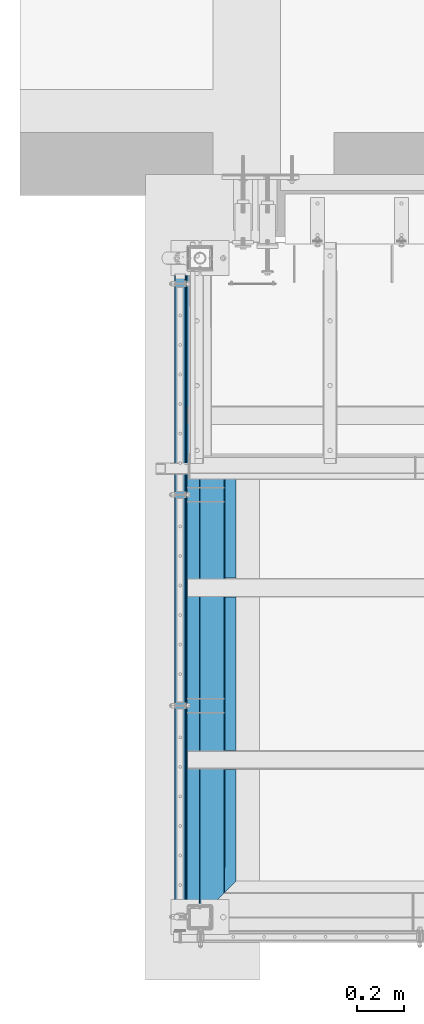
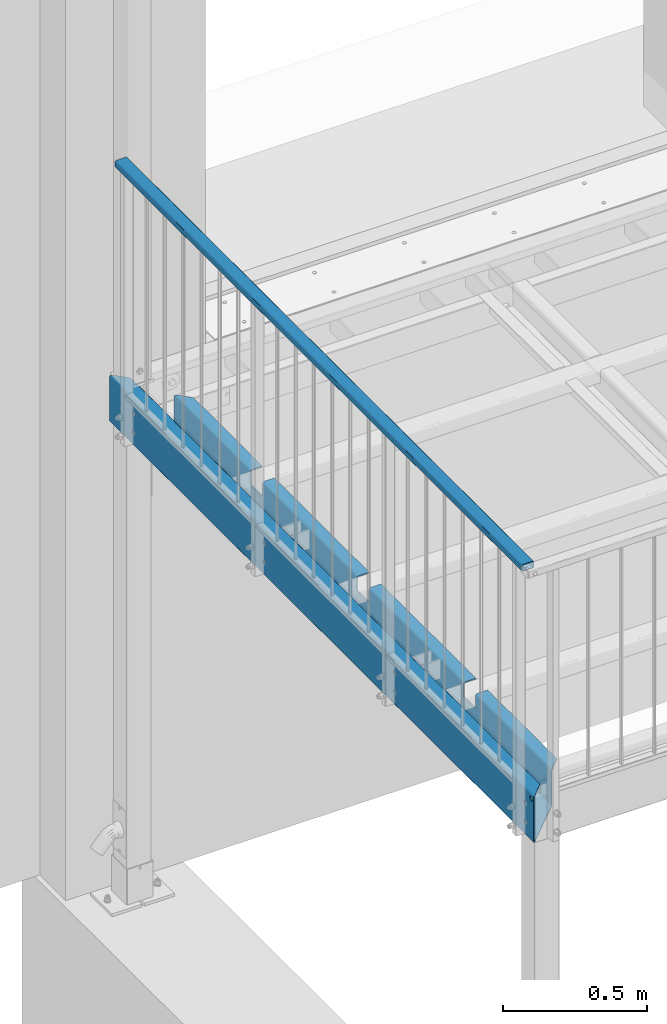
# One storey, part 9 of 116: 2 beams, 38 openings.
"""IFC2X3 building model written with IfcOpenShell, lengths in millimetres."""

from ifc_helpers import new_model, entity, si_unit, converted_unit, point, frame, frame_2d, origin, origin_with_axes, origin_2d, place, context, project, spatial, polyline, circle_curve, line_curve, trimmed, segment, composite_curve, hollow_rectangle, circle, outline, extrude, clip, halfspace, material, element, save


model = new_model("IFC2X3")

# Units and contexts
model_context = context("Model", 3, precision=1e-09, world=origin_with_axes())
ifc_project = project(units=[si_unit("LENGTHUNIT", "METRE", prefix="MILLI"), si_unit("AREAUNIT", "SQUARE_METRE"), si_unit("VOLUMEUNIT", "CUBIC_METRE"), converted_unit("PLANEANGLEUNIT", "DEGREE", entity("IfcPlaneAngleMeasure", 0.01745329), si_unit("PLANEANGLEUNIT", "RADIAN"), dimensions=[0, 0, 0, 0, 0, 0, 0])], contexts=[model_context])

# Site, building, storey
site_placement = place(None, origin_with_axes())
site = spatial("IfcSite", under=ifc_project, at=site_placement, Name="Site", CompositionType="ELEMENT")
building_placement = place(site_placement, origin_with_axes())
building = spatial("IfcBuilding", under=site, at=building_placement, Name="Struktur 1", CompositionType="ELEMENT")
storey_placement = place(building_placement, origin_with_axes())
storey = spatial("IfcBuildingStorey", under=building, at=storey_placement, Name="Default Storey", CompositionType="ELEMENT", Elevation=0.0)

# Beam, openings
ifc_material_1 = material(Name="S355JR")
beam_1_placement = place(None, frame((55384.549134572, 8675.322881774, -105.0), z_axis=(0.0, -1.0, 0.0), x_axis=(1.0, 0.0, 0.0)))
beam_1 = element("IfcBeam", 1, at=beam_1_placement, inside=storey, material=ifc_material_1, Name="-", ObjectType="-", context=model_context, shape_type="Clipping", body=[
    clip(clip(extrude(outline(composite_curve([segment(trimmed(line_curve((-47.5, 60.0), (0.0, 1.0), 31.0), [point((-47.5, 60.0))], [point((-47.5, 91.0))], True, "CARTESIAN"), True, "CONTINUOUS"), segment(trimmed(circle_curve(frame_2d((-56.500000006, 90.999999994), x_axis=(1.0, 0.0)), 9.000000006), [point((-47.5, 91.0))], [point((-56.5, 100.0))], True, "CARTESIAN"), True, "CONTINUOUS"), segment(trimmed(line_curve((-56.5, 100.0), (-1.0, 0.0), 42.0), [point((-56.5, 100.0))], [point((-98.5, 100.0))], True, "CARTESIAN"), True, "CONTINUOUS"), segment(trimmed(circle_curve(frame_2d((-98.499999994, 90.999999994), x_axis=(1.0, 0.0)), 9.000000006), [point((-98.5, 100.0))], [point((-107.5, 91.0))], True, "CARTESIAN"), True, "CONTINUOUS"), segment(trimmed(line_curve((-107.5, 91.0), (0.0, -1.0), 182.0), [point((-107.5, 91.0))], [point((-107.5, -91.0))], True, "CARTESIAN"), True, "CONTINUOUS"), segment(trimmed(circle_curve(frame_2d((-98.499999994, -90.999999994), x_axis=(1.0, 0.0)), 9.000000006), [point((-107.5, -91.0))], [point((-98.5, -100.0))], True, "CARTESIAN"), True, "CONTINUOUS"), segment(trimmed(line_curve((-98.5, -100.0), (1.0, 0.0), 152.0), [point((-98.5, -100.0))], [point((53.5, -100.0))], True, "CARTESIAN"), True, "CONTINUOUS"), segment(trimmed(circle_curve(frame_2d((53.499999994, -90.999999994), x_axis=(1.0, 0.0)), 9.000000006), [point((53.5, -100.0))], [point((62.5, -91.0))], True, "CARTESIAN"), True, "CONTINUOUS"), segment(trimmed(line_curve((62.5, -91.0), (0.0, 1.0), 139.0), [point((62.5, -91.0))], [point((62.5, 48.0))], True, "CARTESIAN"), True, "CONTINUOUS"), segment(trimmed(circle_curve(frame_2d((66.500000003, 47.999999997), x_axis=(-1.0, 0.0)), 4.000000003), [point((62.5, 48.0))], [point((66.5, 52.0))], False, "CARTESIAN"), True, "CONTINUOUS"), segment(trimmed(line_curve((66.5, 52.0), (1.0, 0.0), 41.0), [point((66.5, 52.0))], [point((107.5, 52.0))], True, "CARTESIAN"), True, "CONTINUOUS"), segment(trimmed(line_curve((107.5, 52.0), (0.0, 1.0), 5.0), [point((107.5, 52.0))], [point((107.5, 57.0))], True, "CARTESIAN"), True, "CONTINUOUS"), segment(trimmed(line_curve((107.5, 57.0), (-1.0, 0.0), 41.0), [point((107.5, 57.0))], [point((66.5, 57.0))], True, "CARTESIAN"), True, "CONTINUOUS"), segment(trimmed(circle_curve(frame_2d((66.500000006, 47.999999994), x_axis=(1.0, 0.0)), 9.000000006), [point((66.5, 57.0))], [point((57.5, 48.0))], True, "CARTESIAN"), True, "CONTINUOUS"), segment(trimmed(line_curve((57.5, 48.0), (0.0, -1.0), 139.0), [point((57.5, 48.0))], [point((57.5, -91.0))], True, "CARTESIAN"), True, "CONTINUOUS"), segment(trimmed(circle_curve(frame_2d((53.499999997, -90.999999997), x_axis=(-1.0, 0.0)), 4.000000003), [point((57.5, -91.0))], [point((53.5, -95.0))], False, "CARTESIAN"), True, "CONTINUOUS"), segment(trimmed(line_curve((53.5, -95.0), (-1.0, 0.0), 152.0), [point((53.5, -95.0))], [point((-98.5, -95.0))], True, "CARTESIAN"), True, "CONTINUOUS"), segment(trimmed(circle_curve(frame_2d((-98.499999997, -90.999999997), x_axis=(-1.0, 0.0)), 4.000000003), [point((-98.5, -95.0))], [point((-102.5, -91.0))], False, "CARTESIAN"), True, "CONTINUOUS"), segment(trimmed(line_curve((-102.5, -91.0), (0.0, 1.0), 182.0), [point((-102.5, -91.0))], [point((-102.5, 91.0))], True, "CARTESIAN"), True, "CONTINUOUS"), segment(trimmed(circle_curve(frame_2d((-98.499999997, 90.999999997), x_axis=(-1.0, 0.0)), 4.000000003), [point((-102.5, 91.0))], [point((-98.5, 95.0))], False, "CARTESIAN"), True, "CONTINUOUS"), segment(trimmed(line_curve((-98.5, 95.0), (1.0, 0.0), 42.0), [point((-98.5, 95.0))], [point((-56.5, 95.0))], True, "CARTESIAN"), True, "CONTINUOUS"), segment(trimmed(circle_curve(frame_2d((-56.500000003, 90.999999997), x_axis=(-1.0, 0.0)), 4.000000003), [point((-56.5, 95.0))], [point((-52.5, 91.0))], False, "CARTESIAN"), True, "CONTINUOUS"), segment(trimmed(line_curve((-52.5, 91.0), (0.0, -1.0), 31.0), [point((-52.5, 91.0))], [point((-52.5, 60.0))], True, "CARTESIAN"), True, "CONTINUOUS"), segment(trimmed(line_curve((-52.5, 60.0), (1.0, 0.0), 5.0), [point((-52.5, 60.0))], [point((-47.5, 60.0))], True, "CARTESIAN"), True, "CONTINUOUS")], self_intersect=False)), origin(), (0.0, 0.0, -1.0), 3744.072002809), halfspace(frame((-21734.845832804, 105.0, -24974.380419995), z_axis=(-0.707106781, 0.0, 0.707106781), x_axis=(0.707106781, 0.0, 0.707106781)), True)), halfspace(frame((-32282.204715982, 105.0, 31777.667300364), z_axis=(-0.707106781, 0.0, -0.707106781), x_axis=(-0.707106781, 0.0, 0.707106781)), True)),
])
opening_1_placement = place(beam_1_placement, frame((-112.790927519, -200.1, -3350.394346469), z_axis=(0.0, 1.0, 0.0), x_axis=(1.0, 0.0, 0.0)))
element("IfcOpeningElement", 2, at=opening_1_placement, cuts=beam_1, ObjectType="Opening", context=model_context, shape_type="SweptSolid", body=[
    extrude(outline(polyline([(-10.293341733, -8.357660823), (10.293341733, -8.357660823), (10.293341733, 8.357660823), (-10.293341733, 8.357660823), (-10.293341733, -8.357660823)])), origin(), (0.0, 0.0, 1.0), 400.2),
])
opening_2_placement = place(beam_1_placement, frame((-123.084269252, -200.1, -402.035317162), z_axis=(0.0, -1.0, 0.0), x_axis=(1.0, 0.0, 0.0)))
element("IfcOpeningElement", 3, at=opening_2_placement, cuts=beam_1, ObjectType="Opening", context=model_context, shape_type="SweptSolid", body=[
    extrude(outline(polyline([(0.0, 0.0), (20.586683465, 0.0), (20.586683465, 16.715321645), (0.0, 16.715321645), (0.0, 0.0)])), origin(), (0.0, 0.0, -1.0), 400.2),
])
opening_3_placement = place(beam_1_placement, frame((207.6, 100.0, -3347.036001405), z_axis=(-1.0, 0.0, 0.0), x_axis=(0.0, 0.0, 1.0)))
element("IfcOpeningElement", 4, at=opening_3_placement, cuts=beam_1, ObjectType="Opening", context=model_context, shape_type="SweptSolid", body=[
    extrude(outline(composite_curve([segment(trimmed(circle_curve(frame_2d((1438.999, -99.001), x_axis=(1.0, 0.0)), 5.0), [point((1433.999, -99.001))], [point((1438.999, -104.001))], True, "CARTESIAN"), True, "CONTINUOUS"), segment(trimmed(line_curve((1438.999, -104.001), (1.0, 0.0), 72.002), [point((1438.999, -104.001))], [point((1511.001, -104.001))], True, "CARTESIAN"), True, "CONTINUOUS"), segment(trimmed(circle_curve(frame_2d((1511.001, -99.001), x_axis=(1.0, 0.0)), 5.0), [point((1511.001, -104.001))], [point((1516.001, -99.001))], True, "CARTESIAN"), True, "CONTINUOUS"), segment(trimmed(line_curve((1516.001, -99.001), (0.0, 1.0), 64.909628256), [point((1516.001, -99.001))], [point((1516.001, -34.091371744))], True, "CARTESIAN"), True, "CONTINUOUS"), segment(trimmed(circle_curve(frame_2d((1511.001, -34.091371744), x_axis=(1.0, 0.0)), 5.0), [point((1516.001, -34.091371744))], [point((1511.001, -29.091371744))], True, "CARTESIAN"), True, "CONTINUOUS"), segment(trimmed(line_curve((1511.001, -29.091371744), (-1.0, 0.0), 72.002), [point((1511.001, -29.091371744))], [point((1438.999, -29.091371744))], True, "CARTESIAN"), True, "CONTINUOUS"), segment(trimmed(circle_curve(frame_2d((1438.999, -34.091371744), x_axis=(1.0, 0.0)), 5.0), [point((1438.999, -29.091371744))], [point((1433.999, -34.091371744))], True, "CARTESIAN"), True, "CONTINUOUS"), segment(trimmed(line_curve((1433.999, -34.091371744), (0.0, -1.0), 64.909628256), [point((1433.999, -34.091371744))], [point((1433.999, -99.001))], True, "CARTESIAN"), True, "CONTINUOUS")], self_intersect=False)), origin(), (0.0, 0.0, 1.0), 215.1),
])
opening_4_placement = place(beam_1_placement, frame((-102.0, 100.0, -402.035317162), z_axis=(-1.0, 0.0, 0.0), x_axis=(0.0, 0.0, 1.0)))
element("IfcOpeningElement", 5, at=opening_4_placement, cuts=beam_1, ObjectType="Opening", context=model_context, shape_type="SweptSolid", body=[
    extrude(circle(Radius=10.001, at=frame_2d((-15.0, -20.0), x_axis=(1.0, 0.0))), origin(), (0.0, 0.0, 1.0), 6.0),
])
opening_5_placement = place(beam_1_placement, frame((207.6, 33.453814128, -2612.036001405), z_axis=(-1.0, 0.0, 0.0), x_axis=(0.0, 0.0, 1.0)))
element("IfcOpeningElement", 6, at=opening_5_placement, cuts=beam_1, ObjectType="Opening", context=model_context, shape_type="SweptSolid", body=[
    extrude(outline(composite_curve([segment(trimmed(circle_curve(frame_2d((-36.001, -32.454814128), x_axis=(1.0, 0.0)), 5.0), [point((-41.001, -32.454814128))], [point((-36.001, -37.454814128))], True, "CARTESIAN"), True, "CONTINUOUS"), segment(trimmed(line_curve((-36.001, -37.454814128), (1.0, 0.0), 72.002), [point((-36.001, -37.454814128))], [point((36.001, -37.454814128))], True, "CARTESIAN"), True, "CONTINUOUS"), segment(trimmed(circle_curve(frame_2d((36.001, -32.454814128), x_axis=(1.0, 0.0)), 5.0), [point((36.001, -37.454814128))], [point((41.001, -32.454814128))], True, "CARTESIAN"), True, "CONTINUOUS"), segment(trimmed(line_curve((41.001, -32.454814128), (0.0, 1.0), 64.909628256), [point((41.001, -32.454814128))], [point((41.001, 32.454814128))], True, "CARTESIAN"), True, "CONTINUOUS"), segment(trimmed(circle_curve(frame_2d((36.001, 32.454814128), x_axis=(1.0, 0.0)), 5.0), [point((41.001, 32.454814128))], [point((36.001, 37.454814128))], True, "CARTESIAN"), True, "CONTINUOUS"), segment(trimmed(line_curve((36.001, 37.454814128), (-1.0, 0.0), 72.002), [point((36.001, 37.454814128))], [point((-36.001, 37.454814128))], True, "CARTESIAN"), True, "CONTINUOUS"), segment(trimmed(circle_curve(frame_2d((-36.001, 32.454814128), x_axis=(1.0, 0.0)), 5.0), [point((-36.001, 37.454814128))], [point((-41.001, 32.454814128))], True, "CARTESIAN"), True, "CONTINUOUS"), segment(trimmed(line_curve((-41.001, 32.454814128), (0.0, -1.0), 64.909628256), [point((-41.001, 32.454814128))], [point((-41.001, -32.454814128))], True, "CARTESIAN"), True, "CONTINUOUS")], self_intersect=False)), origin(), (0.0, 0.0, 1.0), 215.1),
])
opening_6_placement = place(beam_1_placement, frame((207.6, 33.453814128, -1132.036001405), z_axis=(-1.0, 0.0, 0.0), x_axis=(0.0, 0.0, 1.0)))
element("IfcOpeningElement", 7, at=opening_6_placement, cuts=beam_1, ObjectType="Opening", context=model_context, shape_type="SweptSolid", body=[
    extrude(outline(composite_curve([segment(trimmed(circle_curve(frame_2d((-36.001, -32.454814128), x_axis=(1.0, 0.0)), 5.0), [point((-41.001, -32.454814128))], [point((-36.001, -37.454814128))], True, "CARTESIAN"), True, "CONTINUOUS"), segment(trimmed(line_curve((-36.001, -37.454814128), (1.0, 0.0), 72.002), [point((-36.001, -37.454814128))], [point((36.001, -37.454814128))], True, "CARTESIAN"), True, "CONTINUOUS"), segment(trimmed(circle_curve(frame_2d((36.001, -32.454814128), x_axis=(1.0, 0.0)), 5.0), [point((36.001, -37.454814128))], [point((41.001, -32.454814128))], True, "CARTESIAN"), True, "CONTINUOUS"), segment(trimmed(line_curve((41.001, -32.454814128), (0.0, 1.0), 64.909628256), [point((41.001, -32.454814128))], [point((41.001, 32.454814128))], True, "CARTESIAN"), True, "CONTINUOUS"), segment(trimmed(circle_curve(frame_2d((36.001, 32.454814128), x_axis=(1.0, 0.0)), 5.0), [point((41.001, 32.454814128))], [point((36.001, 37.454814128))], True, "CARTESIAN"), True, "CONTINUOUS"), segment(trimmed(line_curve((36.001, 37.454814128), (-1.0, 0.0), 72.002), [point((36.001, 37.454814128))], [point((-36.001, 37.454814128))], True, "CARTESIAN"), True, "CONTINUOUS"), segment(trimmed(circle_curve(frame_2d((-36.001, 32.454814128), x_axis=(1.0, 0.0)), 5.0), [point((-36.001, 37.454814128))], [point((-41.001, 32.454814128))], True, "CARTESIAN"), True, "CONTINUOUS"), segment(trimmed(line_curve((-41.001, 32.454814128), (0.0, -1.0), 64.909628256), [point((-41.001, 32.454814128))], [point((-41.001, -32.454814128))], True, "CARTESIAN"), True, "CONTINUOUS")], self_intersect=False)), origin(), (0.0, 0.0, 1.0), 215.1),
])
opening_7_placement = place(beam_1_placement, frame((-108.0, 40.0, -3184.037001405), z_axis=(-1.0, 0.0, 0.0), x_axis=(0.0, -1.0, 0.0)))
element("IfcOpeningElement", 8, at=opening_7_placement, cuts=beam_1, ObjectType="Opening", context=model_context, shape_type="SweptSolid", body=[
    extrude(circle(Radius=7.001, at=frame_2d((0.0, 7.001), x_axis=(1.0, 0.0))), origin(), (0.0, 0.0, -1.0), 6.0),
])
opening_8_placement = place(beam_1_placement, frame((-108.0, -40.0, -3184.037001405), z_axis=(-1.0, 0.0, 0.0), x_axis=(0.0, -1.0, 0.0)))
element("IfcOpeningElement", 9, at=opening_8_placement, cuts=beam_1, ObjectType="Opening", context=model_context, shape_type="SweptSolid", body=[
    extrude(circle(Radius=7.001, at=frame_2d((0.0, 7.001), x_axis=(1.0, 0.0))), origin(), (0.0, 0.0, -1.0), 6.0),
])
opening_9_placement = place(beam_1_placement, frame((-108.0, 40.0, -1372.037001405), z_axis=(-1.0, 0.0, 0.0), x_axis=(0.0, -1.0, 0.0)))
element("IfcOpeningElement", 10, at=opening_9_placement, cuts=beam_1, ObjectType="Opening", context=model_context, shape_type="SweptSolid", body=[
    extrude(circle(Radius=7.001, at=frame_2d((0.0, 7.001), x_axis=(1.0, 0.0))), origin(), (0.0, 0.0, -1.0), 6.0),
])
opening_10_placement = place(beam_1_placement, frame((-108.0, -40.0, -1372.037001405), z_axis=(-1.0, 0.0, 0.0), x_axis=(0.0, -1.0, 0.0)))
element("IfcOpeningElement", 11, at=opening_10_placement, cuts=beam_1, ObjectType="Opening", context=model_context, shape_type="SweptSolid", body=[
    extrude(circle(Radius=7.001, at=frame_2d((0.0, 7.001), x_axis=(1.0, 0.0))), origin(), (0.0, 0.0, -1.0), 6.0),
])
opening_11_placement = place(beam_1_placement, frame((-108.0, 40.0, -466.037001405), z_axis=(-1.0, 0.0, 0.0), x_axis=(0.0, -1.0, 0.0)))
element("IfcOpeningElement", 12, at=opening_11_placement, cuts=beam_1, ObjectType="Opening", context=model_context, shape_type="SweptSolid", body=[
    extrude(circle(Radius=7.001, at=frame_2d((0.0, 7.001), x_axis=(1.0, 0.0))), origin(), (0.0, 0.0, -1.0), 6.0),
])
opening_12_placement = place(beam_1_placement, frame((-108.0, -40.0, -466.037001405), z_axis=(-1.0, 0.0, 0.0), x_axis=(0.0, -1.0, 0.0)))
element("IfcOpeningElement", 13, at=opening_12_placement, cuts=beam_1, ObjectType="Opening", context=model_context, shape_type="SweptSolid", body=[
    extrude(circle(Radius=7.001, at=frame_2d((0.0, 7.001), x_axis=(1.0, 0.0))), origin(), (0.0, 0.0, -1.0), 6.0),
])
opening_13_placement = place(beam_1_placement, frame((-108.0, 40.0, -2278.037001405), z_axis=(-1.0, 0.0, 0.0), x_axis=(0.0, -1.0, 0.0)))
element("IfcOpeningElement", 14, at=opening_13_placement, cuts=beam_1, ObjectType="Opening", context=model_context, shape_type="SweptSolid", body=[
    extrude(circle(Radius=7.001, at=frame_2d((0.0, 7.001), x_axis=(1.0, 0.0))), origin(), (0.0, 0.0, -1.0), 6.0),
])
opening_14_placement = place(beam_1_placement, frame((-108.0, -40.0, -2278.037001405), z_axis=(-1.0, 0.0, 0.0), x_axis=(0.0, -1.0, 0.0)))
element("IfcOpeningElement", 15, at=opening_14_placement, cuts=beam_1, ObjectType="Opening", context=model_context, shape_type="SweptSolid", body=[
    extrude(circle(Radius=7.001, at=frame_2d((0.0, 7.001), x_axis=(1.0, 0.0))), origin(), (0.0, 0.0, -1.0), 6.0),
])
opening_15_placement = place(beam_1_placement, frame((-27.499, -100.5, -3287.036001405), z_axis=(0.0, -1.0, 0.0), x_axis=(1.0, 0.0, 0.0)))
element("IfcOpeningElement", 16, at=opening_15_placement, cuts=beam_1, ObjectType="Opening", context=model_context, shape_type="SweptSolid", body=[
    extrude(circle(Radius=20.001, at=frame_2d((-20.001, 0.0), x_axis=(1.0, 0.0))), origin(), (0.0, 0.0, -1.0), 6.0),
])

ifc_material_2 = material(Name="S235JR")
beam_2_placement = place(None, frame((55252.049134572, 9072.358883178, 980.0), z_axis=(0.0, -1.0, 0.0), x_axis=(0.0, 0.0, -1.0)))
beam_2 = element("IfcBeam", 17, at=beam_2_placement, inside=storey, material=ifc_material_2, Name="-", ObjectType="-", context=model_context, shape_type="SweptSolid", body=[
    extrude(hollow_rectangle(XDim=30.0, YDim=50.0, WallThickness=3.0, InnerFilletRadius=3.0, OuterFilletRadius=6.0, at=origin_2d()), origin(), (0.0, 0.0, -1.0), 2820.0),
])
opening_16_placement = place(beam_2_placement, frame((15.5, 0.0, -22.0), z_axis=(-1.0, 0.0, 0.0), x_axis=(0.0, 1.0, 0.0)))
element("IfcOpeningElement", 18, at=opening_16_placement, cuts=beam_2, ObjectType="Opening", context=model_context, shape_type="SweptSolid", body=[
    extrude(circle(Radius=5.001, at=frame_2d((0.0, -13.0), x_axis=(1.0, 0.0))), origin(), (0.0, 0.0, 1.0), 4.0),
])
opening_17_placement = place(beam_2_placement, frame((15.5, 0.0, -53.0), z_axis=(-1.0, 0.0, 0.0), x_axis=(0.0, 1.0, 0.0)))
element("IfcOpeningElement", 19, at=opening_17_placement, cuts=beam_2, ObjectType="Opening", context=model_context, shape_type="SweptSolid", body=[
    extrude(circle(Radius=5.001, at=frame_2d((0.0, 9.0), x_axis=(1.0, 0.0))), origin(), (0.0, 0.0, 1.0), 4.0),
])
opening_18_placement = place(beam_2_placement, frame((15.5, -5.001, -2780.0), z_axis=(1.0, 0.0, 0.0), x_axis=(0.0, 1.0, 0.0)))
element("IfcOpeningElement", 20, at=opening_18_placement, cuts=beam_2, ObjectType="Opening", context=model_context, shape_type="SweptSolid", body=[
    extrude(circle(Radius=5.001, at=frame_2d((5.001, 0.0), x_axis=(1.0, 0.0))), origin(), (0.0, 0.0, -1.0), 4.0),
])
opening_19_placement = place(beam_2_placement, frame((15.5, 0.0, -995.0), z_axis=(-1.0, 0.0, 0.0), x_axis=(0.0, 1.0, 0.0)))
element("IfcOpeningElement", 21, at=opening_19_placement, cuts=beam_2, ObjectType="Opening", context=model_context, shape_type="SweptSolid", body=[
    extrude(circle(Radius=5.001, at=frame_2d((0.0, -27.0), x_axis=(1.0, 0.0))), origin(), (0.0, 0.0, 1.0), 4.0),
])
opening_20_placement = place(beam_2_placement, frame((15.5, 0.0, -1937.0), z_axis=(-1.0, 0.0, 0.0), x_axis=(0.0, 1.0, 0.0)))
element("IfcOpeningElement", 22, at=opening_20_placement, cuts=beam_2, ObjectType="Opening", context=model_context, shape_type="SweptSolid", body=[
    extrude(circle(Radius=5.001, at=frame_2d((0.0, -63.0), x_axis=(1.0, 0.0))), origin(), (0.0, 0.0, 1.0), 4.0),
])
opening_21_placement = place(beam_2_placement, frame((11.5, -6.051, -2644.1428571), z_axis=(-1.0, 0.0, 0.0), x_axis=(0.0, -1.0, 0.0)))
element("IfcOpeningElement", 23, at=opening_21_placement, cuts=beam_2, ObjectType="Opening", context=model_context, shape_type="SweptSolid", body=[
    extrude(circle(Radius=6.051, at=frame_2d((-6.051, 0.0), x_axis=(1.0, 0.0))), origin(), (0.0, 0.0, -1.0), 4.0),
])
opening_22_placement = place(beam_2_placement, frame((11.5, -6.051, -2517.2857142), z_axis=(-1.0, 0.0, 0.0), x_axis=(0.0, -1.0, 0.0)))
element("IfcOpeningElement", 24, at=opening_22_placement, cuts=beam_2, ObjectType="Opening", context=model_context, shape_type="SweptSolid", body=[
    extrude(circle(Radius=6.051, at=frame_2d((-6.051, 0.0), x_axis=(1.0, 0.0))), origin(), (0.0, 0.0, -1.0), 4.0),
])
opening_23_placement = place(beam_2_placement, frame((11.5, -6.051, -2390.4285713), z_axis=(-1.0, 0.0, 0.0), x_axis=(0.0, -1.0, 0.0)))
element("IfcOpeningElement", 25, at=opening_23_placement, cuts=beam_2, ObjectType="Opening", context=model_context, shape_type="SweptSolid", body=[
    extrude(circle(Radius=6.051, at=frame_2d((-6.051, 0.0), x_axis=(1.0, 0.0))), origin(), (0.0, 0.0, -1.0), 4.0),
])
opening_24_placement = place(beam_2_placement, frame((11.5, -6.051, -2263.5714284), z_axis=(-1.0, 0.0, 0.0), x_axis=(0.0, -1.0, 0.0)))
element("IfcOpeningElement", 26, at=opening_24_placement, cuts=beam_2, ObjectType="Opening", context=model_context, shape_type="SweptSolid", body=[
    extrude(circle(Radius=6.051, at=frame_2d((-6.051, 0.0), x_axis=(1.0, 0.0))), origin(), (0.0, 0.0, -1.0), 4.0),
])
opening_25_placement = place(beam_2_placement, frame((11.5, -6.051, -2136.7142855), z_axis=(-1.0, 0.0, 0.0), x_axis=(0.0, -1.0, 0.0)))
element("IfcOpeningElement", 27, at=opening_25_placement, cuts=beam_2, ObjectType="Opening", context=model_context, shape_type="SweptSolid", body=[
    extrude(circle(Radius=6.051, at=frame_2d((-6.051, 0.0), x_axis=(1.0, 0.0))), origin(), (0.0, 0.0, -1.0), 4.0),
])
opening_26_placement = place(beam_2_placement, frame((11.5, -6.051, -2009.8571426), z_axis=(-1.0, 0.0, 0.0), x_axis=(0.0, -1.0, 0.0)))
element("IfcOpeningElement", 28, at=opening_26_placement, cuts=beam_2, ObjectType="Opening", context=model_context, shape_type="SweptSolid", body=[
    extrude(circle(Radius=6.051, at=frame_2d((-6.051, 0.0), x_axis=(1.0, 0.0))), origin(), (0.0, 0.0, -1.0), 4.0),
])
opening_27_placement = place(beam_2_placement, frame((11.5, -6.051, -1103.8571426), z_axis=(-1.0, 0.0, 0.0), x_axis=(0.0, -1.0, 0.0)))
element("IfcOpeningElement", 29, at=opening_27_placement, cuts=beam_2, ObjectType="Opening", context=model_context, shape_type="SweptSolid", body=[
    extrude(circle(Radius=6.051, at=frame_2d((-6.051, 0.0), x_axis=(1.0, 0.0))), origin(), (0.0, 0.0, -1.0), 4.0),
])
opening_28_placement = place(beam_2_placement, frame((11.5, -6.051, -1230.7142855), z_axis=(-1.0, 0.0, 0.0), x_axis=(0.0, -1.0, 0.0)))
element("IfcOpeningElement", 30, at=opening_28_placement, cuts=beam_2, ObjectType="Opening", context=model_context, shape_type="SweptSolid", body=[
    extrude(circle(Radius=6.051, at=frame_2d((-6.051, 0.0), x_axis=(1.0, 0.0))), origin(), (0.0, 0.0, -1.0), 4.0),
])
opening_29_placement = place(beam_2_placement, frame((11.5, -6.051, -1357.5714284), z_axis=(-1.0, 0.0, 0.0), x_axis=(0.0, -1.0, 0.0)))
element("IfcOpeningElement", 31, at=opening_29_placement, cuts=beam_2, ObjectType="Opening", context=model_context, shape_type="SweptSolid", body=[
    extrude(circle(Radius=6.051, at=frame_2d((-6.051, 0.0), x_axis=(1.0, 0.0))), origin(), (0.0, 0.0, -1.0), 4.0),
])
opening_30_placement = place(beam_2_placement, frame((11.5, -6.051, -1484.4285713), z_axis=(-1.0, 0.0, 0.0), x_axis=(0.0, -1.0, 0.0)))
element("IfcOpeningElement", 32, at=opening_30_placement, cuts=beam_2, ObjectType="Opening", context=model_context, shape_type="SweptSolid", body=[
    extrude(circle(Radius=6.051, at=frame_2d((-6.051, 0.0), x_axis=(1.0, 0.0))), origin(), (0.0, 0.0, -1.0), 4.0),
])
opening_31_placement = place(beam_2_placement, frame((11.5, -6.051, -1611.2857142), z_axis=(-1.0, 0.0, 0.0), x_axis=(0.0, -1.0, 0.0)))
element("IfcOpeningElement", 33, at=opening_31_placement, cuts=beam_2, ObjectType="Opening", context=model_context, shape_type="SweptSolid", body=[
    extrude(circle(Radius=6.051, at=frame_2d((-6.051, 0.0), x_axis=(1.0, 0.0))), origin(), (0.0, 0.0, -1.0), 4.0),
])
opening_32_placement = place(beam_2_placement, frame((11.5, -6.051, -1738.1428571), z_axis=(-1.0, 0.0, 0.0), x_axis=(0.0, -1.0, 0.0)))
element("IfcOpeningElement", 34, at=opening_32_placement, cuts=beam_2, ObjectType="Opening", context=model_context, shape_type="SweptSolid", body=[
    extrude(circle(Radius=6.051, at=frame_2d((-6.051, 0.0), x_axis=(1.0, 0.0))), origin(), (0.0, 0.0, -1.0), 4.0),
])
opening_33_placement = place(beam_2_placement, frame((11.5, -6.051, -832.1428571), z_axis=(-1.0, 0.0, 0.0), x_axis=(0.0, -1.0, 0.0)))
element("IfcOpeningElement", 35, at=opening_33_placement, cuts=beam_2, ObjectType="Opening", context=model_context, shape_type="SweptSolid", body=[
    extrude(circle(Radius=6.051, at=frame_2d((-6.051, 0.0), x_axis=(1.0, 0.0))), origin(), (0.0, 0.0, -1.0), 4.0),
])
opening_34_placement = place(beam_2_placement, frame((11.5, -6.051, -705.2857142), z_axis=(-1.0, 0.0, 0.0), x_axis=(0.0, -1.0, 0.0)))
element("IfcOpeningElement", 36, at=opening_34_placement, cuts=beam_2, ObjectType="Opening", context=model_context, shape_type="SweptSolid", body=[
    extrude(circle(Radius=6.051, at=frame_2d((-6.051, 0.0), x_axis=(1.0, 0.0))), origin(), (0.0, 0.0, -1.0), 4.0),
])
opening_35_placement = place(beam_2_placement, frame((11.5, -6.051, -578.4285713), z_axis=(-1.0, 0.0, 0.0), x_axis=(0.0, -1.0, 0.0)))
element("IfcOpeningElement", 37, at=opening_35_placement, cuts=beam_2, ObjectType="Opening", context=model_context, shape_type="SweptSolid", body=[
    extrude(circle(Radius=6.051, at=frame_2d((-6.051, 0.0), x_axis=(1.0, 0.0))), origin(), (0.0, 0.0, -1.0), 4.0),
])
opening_36_placement = place(beam_2_placement, frame((11.5, -6.051, -451.5714284), z_axis=(-1.0, 0.0, 0.0), x_axis=(0.0, -1.0, 0.0)))
element("IfcOpeningElement", 38, at=opening_36_placement, cuts=beam_2, ObjectType="Opening", context=model_context, shape_type="SweptSolid", body=[
    extrude(circle(Radius=6.051, at=frame_2d((-6.051, 0.0), x_axis=(1.0, 0.0))), origin(), (0.0, 0.0, -1.0), 4.0),
])
opening_37_placement = place(beam_2_placement, frame((11.5, -6.051, -324.7142855), z_axis=(-1.0, 0.0, 0.0), x_axis=(0.0, -1.0, 0.0)))
element("IfcOpeningElement", 39, at=opening_37_placement, cuts=beam_2, ObjectType="Opening", context=model_context, shape_type="SweptSolid", body=[
    extrude(circle(Radius=6.051, at=frame_2d((-6.051, 0.0), x_axis=(1.0, 0.0))), origin(), (0.0, 0.0, -1.0), 4.0),
])
opening_38_placement = place(beam_2_placement, frame((11.5, -6.051, -197.8571426), z_axis=(-1.0, 0.0, 0.0), x_axis=(0.0, -1.0, 0.0)))
element("IfcOpeningElement", 40, at=opening_38_placement, cuts=beam_2, ObjectType="Opening", context=model_context, shape_type="SweptSolid", body=[
    extrude(circle(Radius=6.051, at=frame_2d((-6.051, 0.0), x_axis=(1.0, 0.0))), origin(), (0.0, 0.0, -1.0), 4.0),
])

save(model, "model.ifc")
